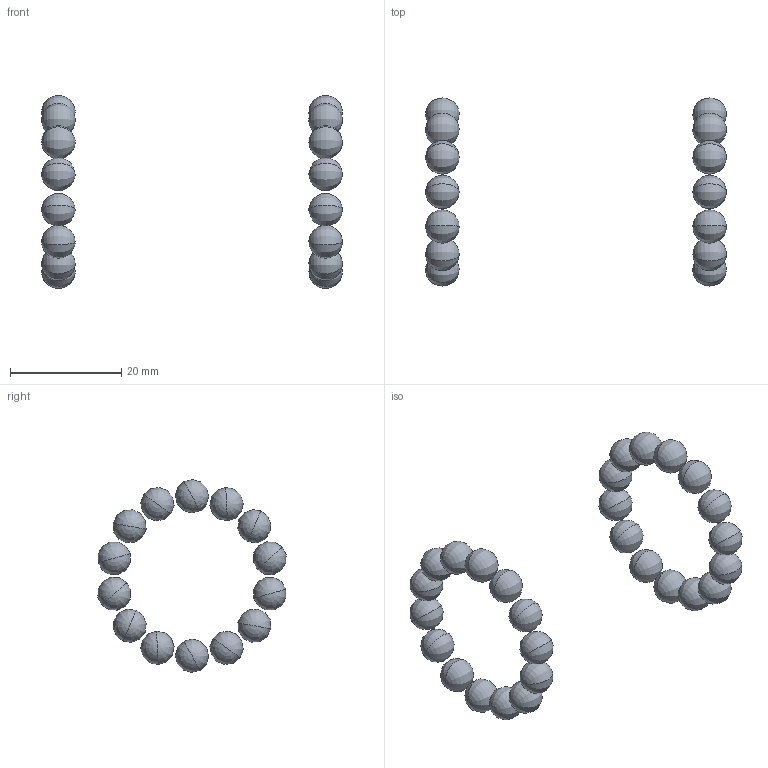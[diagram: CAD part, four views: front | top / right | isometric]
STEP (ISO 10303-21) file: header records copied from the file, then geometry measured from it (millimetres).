
FILE_DESCRIPTION (( 'STEP AP214' ), '1' );
FILE_NAME ('KTU-200WK-GS-90.STEP', '2018-08-30T08:07:29', ( '' ), ( '' ), 'SwSTEP 2.0', 'SolidWorks 2010', '' );
FILE_SCHEMA (( 'AUTOMOTIVE_DESIGN' ));
Length unit declared in the file: millimetre
Products named in the file (1): KTU-200WK-GS-90
Bounding box: 54 x 33.81 x 34.65 mm (x, y, z)
Volume: 3166.5 mm3; surface area: 3166.6 mm2
Topology: 28 solids, 28 shells, 56 faces, 206 edges, 94 vertices
Faces by surface type: bspline 56
Entity records: 48959 total; most frequent: CARTESIAN_POINT 47873, ORIENTED_EDGE 188, VERTEX_POINT 94, EDGE_CURVE 94, B_SPLINE_CURVE_WITH_KNOTS 94, B_SPLINE_SURFACE_WITH_KNOTS 56, FACE_OUTER_BOUND 56, EDGE_LOOP 56
